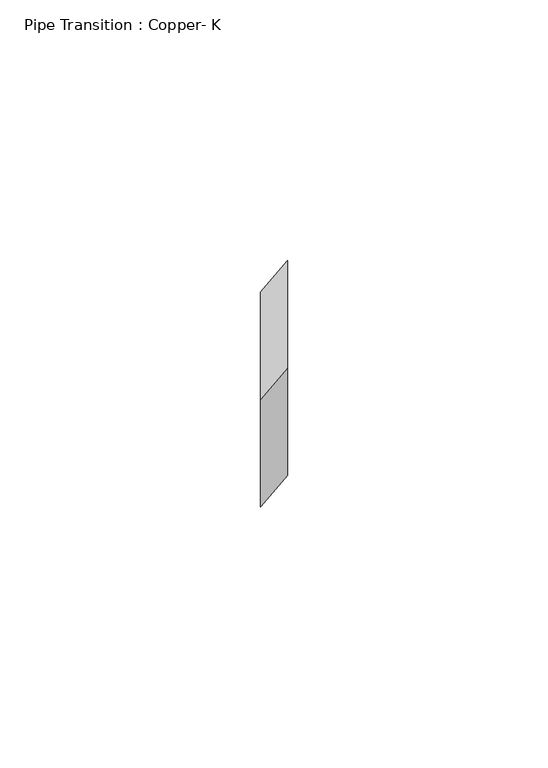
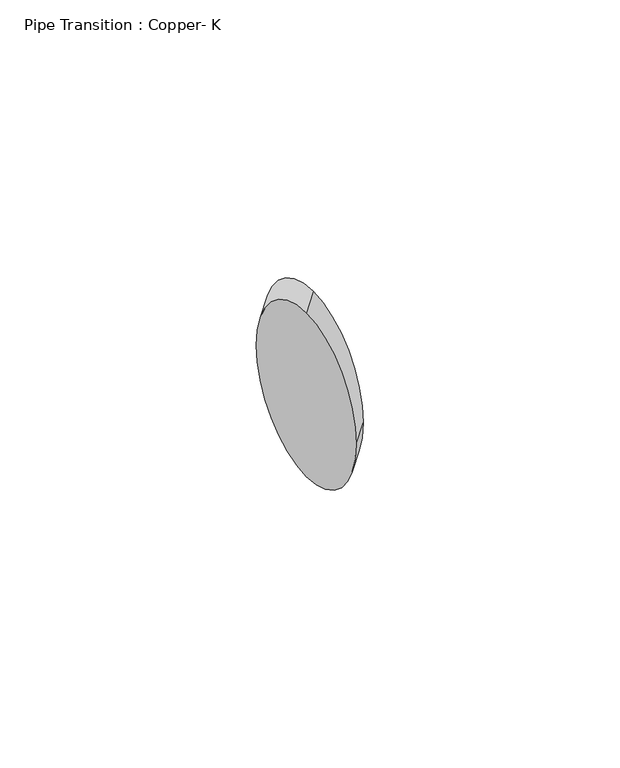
"""IFC4 building model written with IfcOpenShell, lengths in millimetres: pipe fitting geometry, Pipe Transition : Copper- K."""

import ifcopenshell
import ifcopenshell.guid

model = None  # the IFC model being written
_history = None  # IfcOwnerHistory: only IFC2X3 demands one
_inside = {}  # id of a spatial element -> (the spatial element, [elements in it])
_under = {}  # id of a project, library or spatial element -> (it, [spatial elements below it])
_declared = {}  # id of a project -> (the project, [libraries it declares])
_typed = {}  # id of a type object -> (the type object, [elements of that type])
_made_of = {}  # id of a material, layer set ... -> (it, [elements and type objects made of it])


def new_model(schema):
    """Start an empty IFC model of exactly this schema.

    Asked for "IFC4X3", IfcOpenShell would pick the latest addendum, in which some entities
    have other attributes; the version numbers below select the first issue.
    IFC2X3 requires an IfcOwnerHistory on every rooted entity: one is made here for all.
    """
    global model, _history
    if schema == "IFC4X3":
        model = ifcopenshell.file(schema_version=(4, 3, 0, 0))
    else:
        model = ifcopenshell.file(schema=schema)
    _inside.clear()
    _under.clear()
    _declared.clear()
    _typed.clear()
    _made_of.clear()
    _history = None
    if model.schema == "IFC2X3":
        org = make("IfcOrganization", Name="unknown")
        user = make(
            "IfcPersonAndOrganization",
            ThePerson=make("IfcPerson", FamilyName="unknown"),
            TheOrganization=org,
        )
        app = make(
            "IfcApplication",
            ApplicationDeveloper=org,
            Version="unknown",
            ApplicationFullName="unknown",
            ApplicationIdentifier="unknown",
        )
        _history = make(
            "IfcOwnerHistory",
            OwningUser=user,
            OwningApplication=app,
            ChangeAction="ADDED",
            CreationDate=0,
        )
    return model


def make(cls, **values):
    """One entity of the class cls with the attributes given. An attribute that is None is left unset."""
    return model.create_entity(
        cls, **{name: value for name, value in values.items() if value is not None}
    )


def rooted(cls, **values):
    """An entity with a GlobalId (a new one), such as an element, a storey or a relation."""
    return make(cls, GlobalId=ifcopenshell.guid.new(), OwnerHistory=_history, **values)


def si_unit(unit_type, name, prefix=None):
    """IfcSIUnit, for example si_unit("LENGTHUNIT", "METRE", prefix="MILLI")."""
    return make("IfcSIUnit", UnitType=unit_type, Prefix=prefix, Name=name)


def assignment(units):
    """IfcUnitAssignment: the units of a project."""
    return None if units is None else make("IfcUnitAssignment", Units=units)


def point(xyz):
    """IfcCartesianPoint."""
    return None if xyz is None else make("IfcCartesianPoint", Coordinates=xyz)


def direction(xyz):
    """IfcDirection."""
    return None if xyz is None else make("IfcDirection", DirectionRatios=xyz)


def frame(location, z_axis=None, x_axis=None):
    """IfcAxis2Placement3D, a coordinate frame: its origin and axes. An axis left out is left unset."""
    return make(
        "IfcAxis2Placement3D",
        Location=point(location),
        Axis=direction(z_axis),
        RefDirection=direction(x_axis),
    )


def origin():
    """The frame at (0, 0, 0) with its axes left unset."""
    return frame((0.0, 0.0, 0.0))


def place(relative_to, where):
    """IfcLocalPlacement: puts the frame where relative to a parent placement (None: the world)."""
    return make(
        "IfcLocalPlacement", PlacementRelTo=relative_to, RelativePlacement=where
    )


def context(
    kind, dimensions, precision=None, world=None, true_north=None, identifier=None
):
    """IfcGeometricRepresentationContext, for example the 3D "Model" context."""
    return make(
        "IfcGeometricRepresentationContext",
        ContextIdentifier=identifier,
        ContextType=kind,
        CoordinateSpaceDimension=dimensions,
        Precision=precision,
        WorldCoordinateSystem=world,
        TrueNorth=true_north,
    )


def project(units=None, contexts=None):
    """IfcProject with its units and contexts."""
    return rooted(
        "IfcProject",
        Name="project",
        RepresentationContexts=contexts,
        UnitsInContext=assignment(units),
    )


def spatial(cls, under=None, at=None, **own):
    """A site, building, storey or space (cls), placed at a placement, below another one or the project."""
    s = rooted(cls, ObjectPlacement=at, **own)
    if under is not None:
        _under.setdefault(under.id(), (under, []))[1].append(s)
    return s


def circle_curve(where, radius):
    """IfcCircle in the frame where."""
    return make("IfcCircle", Position=where, Radius=radius)


def trimmed(basis, trim1, trim2, sense, master):
    """IfcTrimmedCurve: the piece of a basis curve between two trims."""
    return make(
        "IfcTrimmedCurve",
        BasisCurve=basis,
        Trim1=trim1,
        Trim2=trim2,
        SenseAgreement=sense,
        MasterRepresentation=master,
    )


def shape(context_of_items, identifier, shape_type, items):
    """IfcShapeRepresentation: the items that make up one representation, for example the "Body"."""
    return make(
        "IfcShapeRepresentation",
        ContextOfItems=context_of_items,
        RepresentationIdentifier=identifier,
        RepresentationType=shape_type,
        Items=items,
    )


def source(mapping_origin, context_of_items, identifier, shape_type, items):
    """IfcRepresentationMap: a shape defined once, which mapped items show again and again."""
    return make(
        "IfcRepresentationMap",
        MappingOrigin=mapping_origin,
        MappedRepresentation=shape(context_of_items, identifier, shape_type, items),
    )


def transform(
    local_origin,
    x_axis=None,
    y_axis=None,
    z_axis=None,
    scale=None,
    scale2=None,
    scale3=None,
    uniform=True,
):
    """IfcCartesianTransformationOperator3D, or its non-uniform kind. x_axis, y_axis, z_axis: its Axis1, 2, 3."""
    if uniform:
        return make(
            "IfcCartesianTransformationOperator3D",
            Axis1=direction(x_axis),
            Axis2=direction(y_axis),
            LocalOrigin=point(local_origin),
            Scale=scale,
            Axis3=direction(z_axis),
        )
    return make(
        "IfcCartesianTransformationOperator3DnonUniform",
        Axis1=direction(x_axis),
        Axis2=direction(y_axis),
        LocalOrigin=point(local_origin),
        Scale=scale,
        Axis3=direction(z_axis),
        Scale2=scale2,
        Scale3=scale3,
    )


def mapped(mapping_source, mapping_target):
    """IfcMappedItem: shows the shape of a source again, moved by a transform."""
    return make(
        "IfcMappedItem", MappingSource=mapping_source, MappingTarget=mapping_target
    )


def made_of(thing, what):
    """Note that an element or type object is made of a material, layer set ...; save() writes the relation."""
    if what is not None:
        _made_of.setdefault(what.id(), (what, []))[1].append(thing)
    return thing


def element(
    cls,
    number,
    at=None,
    inside=None,
    cuts=None,
    type_object=None,
    material=None,
    context=None,
    identifier="Body",
    shape_type=None,
    held_by="IfcProductDefinitionShape",
    body=None,
    shapes=None,
    **own,
):
    """One element of the class cls, such as IfcWall. Its Tag is "e" and its number.

    at: its placement. inside: the storey or other place that contains it. cuts: it is an
    opening in that element (IfcRelVoidsElement). A single representation is given by context,
    identifier, shape_type and body (its items); several are given by shapes. held_by: the class
    of the entity that holds the representations. save() writes the other relations.
    """
    e = rooted(cls, Tag="e%d" % number, ObjectPlacement=at, **own)
    if body is not None:
        shapes = [shape(context, identifier, shape_type, body)]
    if shapes is not None:
        e.Representation = make(held_by, Representations=shapes)
    if inside is not None:
        _inside.setdefault(inside.id(), (inside, []))[1].append(e)
    if cuts is not None:
        rooted(
            "IfcRelVoidsElement", RelatingBuildingElement=cuts, RelatedOpeningElement=e
        )
    if type_object is not None:
        _typed.setdefault(type_object.id(), (type_object, []))[1].append(e)
    return made_of(e, material)


def aggregate(whole, parts):
    """IfcRelAggregates: a whole, such as a stair, and the parts it consists of."""
    return rooted("IfcRelAggregates", RelatingObject=whole, RelatedObjects=parts)


def save(model, path):
    """Write the relations noted so far, then the file.

    IfcRelAggregates (storeys below a building ...), IfcRelContainedInSpatialStructure (elements
    in a storey), IfcRelDefinesByType, IfcRelAssociatesMaterial and IfcRelDeclares: one each for
    every whole, place, type object, material and project.
    """
    for whole, parts in _under.values():
        aggregate(whole, parts)
    for where, things in _inside.values():
        rooted(
            "IfcRelContainedInSpatialStructure",
            RelatedElements=things,
            RelatingStructure=where,
        )
    for kind, things in _typed.values():
        rooted("IfcRelDefinesByType", RelatedObjects=things, RelatingType=kind)
    for what, things in _made_of.values():
        rooted("IfcRelAssociatesMaterial", RelatedObjects=things, RelatingMaterial=what)
    for by, libraries in _declared.values():
        rooted("IfcRelDeclares", RelatingContext=by, RelatedDefinitions=libraries)
    model.write(path)


def plane_surface(at):
    """IfcPlane: the flat surface through the origin of the frame at, square to its z axis."""
    return make("IfcPlane", Position=at)


def extruded_surface(curve, direction_of_extrusion, depth):
    """IfcSurfaceOfLinearExtrusion: the curve pushed along a direction by depth."""
    return make(
        "IfcSurfaceOfLinearExtrusion",
        SweptCurve=make("IfcArbitraryOpenProfileDef", ProfileType="CURVE", Curve=curve),
        ExtrudedDirection=direction(direction_of_extrusion),
        Depth=depth,
    )


def advanced_brep(points, edges, surfaces, faces):
    """IfcAdvancedBrep: a solid bounded by faces that lie on surfaces and meet in shared edges.

    An edge is (start, end): straight between two places in points (the first is 0);
    or (start, end, curve); or (start, end, curve, False) where it runs against its curve.
    A face is (place in surfaces, loops), or (place, loops, False) where it looks against
    its surface's normal. A loop lists edges by number (the first is 1), with a minus sign
    where the edge is run from its end to its start. The first loop is the outer one.
    """
    corners = [point(p) for p in points]
    vertices = [make("IfcVertexPoint", VertexGeometry=c) for c in corners]
    made = []
    for start, end, *more in edges:
        made.append(
            make(
                "IfcEdgeCurve",
                EdgeStart=vertices[start],
                EdgeEnd=vertices[end],
                EdgeGeometry=more[0] if more else make("IfcPolyline", Points=[corners[start], corners[end]]),
                SameSense=more[1] if len(more) > 1 else True,
            )
        )
    hull = []
    for where, loops, *sense in faces:
        bounds = []
        for j, loop in enumerate(loops):
            ring = [make("IfcOrientedEdge", EdgeElement=made[abs(k) - 1], Orientation=k > 0) for k in loop]
            bounds.append(
                make(
                    "IfcFaceOuterBound" if j == 0 else "IfcFaceBound",
                    Bound=make("IfcEdgeLoop", EdgeList=ring),
                    Orientation=True,
                )
            )
        hull.append(make("IfcAdvancedFace", Bounds=bounds, FaceSurface=surfaces[where], SameSense=sense[0] if sense else True))
    return make("IfcAdvancedBrep", Outer=make("IfcClosedShell", CfsFaces=hull))


def pipe_transition_copper_k_a236e899(model_context):
    return source(origin(), model_context, "Body", "AdvancedBrep", [
        advanced_brep(
        [(5.159375, 6.022673, 20.6375), (5.159375, -14.614827, 0.0), (5.159375, 6.022673, -20.6375), (5.159375, 26.660173, 0.0), (0.0, 0.0, 20.6375), (0.0, 20.6375, 0.0), (0.0, 0.0, -20.6375), (0.0, -20.6375, 0.0)],
        [
            (0, 1, circle_curve(frame((5.159375, 6.022673, 0.0), z_axis=(1.0, 0.0, 0.0), x_axis=(0.0, -1.0, 0.0)), 20.6375)),
            (1, 2, circle_curve(frame((5.159375, 6.022673, 0.0), z_axis=(1.0, 0.0, 0.0), x_axis=(0.0, -1.0, 0.0)), 20.6375)),
            (2, 3, circle_curve(frame((5.159375, 6.022673, 0.0), z_axis=(1.0, 0.0, 0.0), x_axis=(0.0, -1.0, 0.0)), 20.6375)),
            (3, 0, circle_curve(frame((5.159375, 6.022673, 0.0), z_axis=(1.0, 0.0, 0.0), x_axis=(0.0, -1.0, 0.0)), 20.6375)),
            (4, 5, circle_curve(frame((0.0, 0.0, 0.0), z_axis=(-1.0, 0.0, 0.0), x_axis=(0.0, -1.0, 0.0)), 20.6375)),
            (5, 6, circle_curve(frame((0.0, 0.0, 0.0), z_axis=(-1.0, 0.0, 0.0), x_axis=(0.0, -1.0, 0.0)), 20.6375)),
            (6, 7, circle_curve(frame((0.0, 0.0, 0.0), z_axis=(-1.0, 0.0, 0.0), x_axis=(0.0, -1.0, 0.0)), 20.6375)),
            (7, 4, circle_curve(frame((0.0, 0.0, 0.0), z_axis=(-1.0, 0.0, 0.0), x_axis=(0.0, -1.0, 0.0)), 20.6375)),
            (4, 0),
            (3, 5),
            (2, 6),
            (1, 7),
        ],
        [
            plane_surface(frame((5.159375, 6.022673, 0.0), z_axis=(1.0, 0.0, 0.0), x_axis=(0.0, 1.0, 0.0))),
            plane_surface(frame((0.0, 0.0, 0.0), z_axis=(-1.0, 0.0, 0.0), x_axis=(0.0, 1.0, 0.0))),
            extruded_surface(trimmed(circle_curve(frame((5.159375, 6.022673, 0.0), z_axis=(-1.0, 0.0, 0.0), x_axis=(0.0, -1.0, 0.0)), 20.6375), [point((5.159375, 6.022673, 20.6375))], [point((5.159375, 26.660173, 0.0))], True, "CARTESIAN"), (-5.159375, -6.022673, 0.0), 7.930431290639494),
            extruded_surface(trimmed(circle_curve(frame((5.159375, 6.022673, 0.0), z_axis=(-1.0, 0.0, 0.0), x_axis=(0.0, -1.0, 0.0)), 20.6375), [point((5.159375, 26.660173, 0.0))], [point((5.159375, 6.022673, -20.6375))], True, "CARTESIAN"), (-5.159375, -6.022673, 0.0), 7.930431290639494),
            extruded_surface(trimmed(circle_curve(frame((5.159375, 6.022673, 0.0), z_axis=(-1.0, 0.0, 0.0), x_axis=(0.0, -1.0, 0.0)), 20.6375), [point((5.159375, 6.022673, -20.6375))], [point((5.159375, -14.614827, 0.0))], True, "CARTESIAN"), (-5.159375, -6.022673, 0.0), 7.930431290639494),
            extruded_surface(trimmed(circle_curve(frame((5.159375, 6.022673, 0.0), z_axis=(-1.0, 0.0, 0.0), x_axis=(0.0, -1.0, 0.0)), 20.6375), [point((5.159375, -14.614827, 0.0))], [point((5.159375, 6.022673, 20.6375))], True, "CARTESIAN"), (-5.159375, -6.022673, 0.0), 7.930431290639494),
        ],
        [
            (0, [[1, 2, 3, 4]]),
            (1, [[5, 6, 7, 8]]),
            (2, [[9, -4, 10, -5]]),
            (3, [[-10, -3, 11, -6]]),
            (4, [[-11, -2, 12, -7]]),
            (5, [[-12, -1, -9, -8]]),
        ],
    ),
        advanced_brep(
        [(5.159375, 6.022673, 20.6375), (5.159375, -14.614827, 0.0), (5.159375, 6.022673, -20.6375), (5.159375, 26.660173, 0.0), (0.0, 0.0, 20.6375), (0.0, 20.6375, 0.0), (0.0, 0.0, -20.6375), (0.0, -20.6375, 0.0)],
        [
            (0, 1, circle_curve(frame((5.159375, 6.022673, 0.0), z_axis=(1.0, 0.0, 0.0), x_axis=(0.0, -1.0, 0.0)), 20.6375)),
            (1, 2, circle_curve(frame((5.159375, 6.022673, 0.0), z_axis=(1.0, 0.0, 0.0), x_axis=(0.0, -1.0, 0.0)), 20.6375)),
            (2, 3, circle_curve(frame((5.159375, 6.022673, 0.0), z_axis=(1.0, 0.0, 0.0), x_axis=(0.0, -1.0, 0.0)), 20.6375)),
            (3, 0, circle_curve(frame((5.159375, 6.022673, 0.0), z_axis=(1.0, 0.0, 0.0), x_axis=(0.0, -1.0, 0.0)), 20.6375)),
            (4, 5, circle_curve(frame((0.0, 0.0, 0.0), z_axis=(-1.0, 0.0, 0.0), x_axis=(0.0, -1.0, 0.0)), 20.6375)),
            (5, 6, circle_curve(frame((0.0, 0.0, 0.0), z_axis=(-1.0, 0.0, 0.0), x_axis=(0.0, -1.0, 0.0)), 20.6375)),
            (6, 7, circle_curve(frame((0.0, 0.0, 0.0), z_axis=(-1.0, 0.0, 0.0), x_axis=(0.0, -1.0, 0.0)), 20.6375)),
            (7, 4, circle_curve(frame((0.0, 0.0, 0.0), z_axis=(-1.0, 0.0, 0.0), x_axis=(0.0, -1.0, 0.0)), 20.6375)),
            (4, 0),
            (3, 5),
            (2, 6),
            (1, 7),
        ],
        [
            plane_surface(frame((5.159375, 6.022673, 0.0), z_axis=(1.0, 0.0, 0.0), x_axis=(0.0, 1.0, 0.0))),
            plane_surface(frame((0.0, 0.0, 0.0), z_axis=(-1.0, 0.0, 0.0), x_axis=(0.0, 1.0, 0.0))),
            extruded_surface(trimmed(circle_curve(frame((5.159375, 6.022673, 0.0), z_axis=(-1.0, 0.0, 0.0), x_axis=(0.0, -1.0, 0.0)), 20.6375), [point((5.159375, 6.022673, 20.6375))], [point((5.159375, 26.660173, 0.0))], True, "CARTESIAN"), (-5.159375, -6.022673, 0.0), 7.930431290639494),
            extruded_surface(trimmed(circle_curve(frame((5.159375, 6.022673, 0.0), z_axis=(-1.0, 0.0, 0.0), x_axis=(0.0, -1.0, 0.0)), 20.6375), [point((5.159375, 26.660173, 0.0))], [point((5.159375, 6.022673, -20.6375))], True, "CARTESIAN"), (-5.159375, -6.022673, 0.0), 7.930431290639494),
            extruded_surface(trimmed(circle_curve(frame((5.159375, 6.022673, 0.0), z_axis=(-1.0, 0.0, 0.0), x_axis=(0.0, -1.0, 0.0)), 20.6375), [point((5.159375, 6.022673, -20.6375))], [point((5.159375, -14.614827, 0.0))], True, "CARTESIAN"), (-5.159375, -6.022673, 0.0), 7.930431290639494),
            extruded_surface(trimmed(circle_curve(frame((5.159375, 6.022673, 0.0), z_axis=(-1.0, 0.0, 0.0), x_axis=(0.0, -1.0, 0.0)), 20.6375), [point((5.159375, -14.614827, 0.0))], [point((5.159375, 6.022673, 20.6375))], True, "CARTESIAN"), (-5.159375, -6.022673, 0.0), 7.930431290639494),
        ],
        [
            (0, [[1, 2, 3, 4]]),
            (1, [[5, 6, 7, 8]]),
            (2, [[9, -4, 10, -5]]),
            (3, [[-10, -3, 11, -6]]),
            (4, [[-11, -2, 12, -7]]),
            (5, [[-12, -1, -9, -8]]),
        ],
    ),
    ])


if __name__ == "__main__":
    model = new_model("IFC4")
    model_context = context("Model", 3, world=origin())
    ifc_project = project(units=[si_unit("LENGTHUNIT", "METRE", prefix="MILLI")], contexts=[model_context])
    site = spatial("IfcSite", under=ifc_project)
    building = spatial("IfcBuilding", under=site)
    placement = place(None, origin())
    pipe_transition_copper_k_shape = pipe_transition_copper_k_a236e899(model_context)
    element("IfcPipeFitting", 1, ObjectType="Pipe Transition : Copper- K", at=placement, inside=building, context=model_context, shape_type="MappedRepresentation", body=[
        mapped(pipe_transition_copper_k_shape, transform((0.0, 0.0, 0.0), x_axis=(1.0, 0.0, 0.0), y_axis=(0.0, 1.0, 0.0), z_axis=(0.0, 0.0, 1.0))),
    ])
    save(model, "model.ifc")
